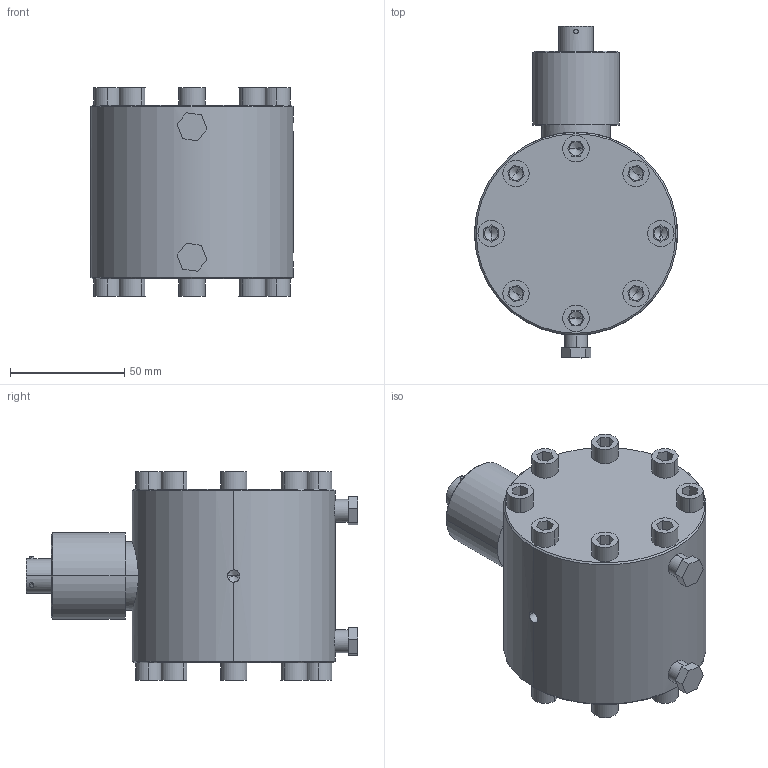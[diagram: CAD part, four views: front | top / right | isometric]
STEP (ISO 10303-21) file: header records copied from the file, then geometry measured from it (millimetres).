
FILE_DESCRIPTION(('STEP AP214'),'1');
FILE_NAME('burster_8310-200_br4q2gmgaccrgig7pnudot8t4.stp','2017-04-19T21:02:37',('TraceParts'),('TraceParts S.A.'),'Spatial InterOp 3D',' ',' ');
FILE_SCHEMA(('automotive_design'));
Length unit declared in the file: millimetre
Products named in the file (1): burster_8310-200_br4q2gmgaccrgig7pnudot8t4
Bounding box: 88.9 x 145.5 x 91.44 mm (x, y, z)
Volume: 519633.5 mm3; surface area: 49589.4 mm2
Topology: 1 solids, 1 shells, 283 faces, 714 edges, 446 vertices
Faces by surface type: plane 153, cylinder 72, cone 46, sphere 12
Entity records: 10850 total; most frequent: CARTESIAN_POINT 1894, DIRECTION 1390, ORIENTED_EDGE 1324, EDGE_CURVE 662, AXIS2_PLACEMENT_3D 472, VERTEX_POINT 446, LINE 446, VECTOR 446
